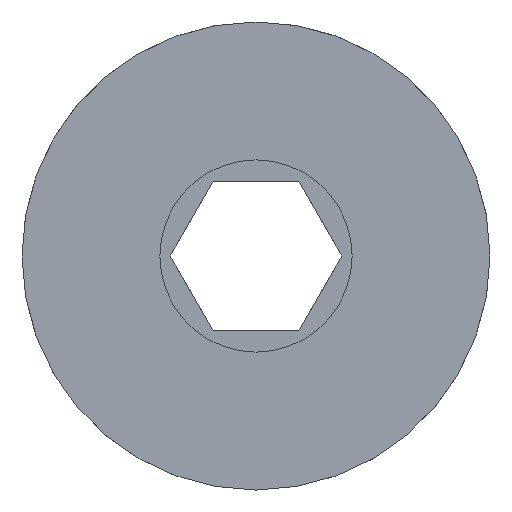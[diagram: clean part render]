
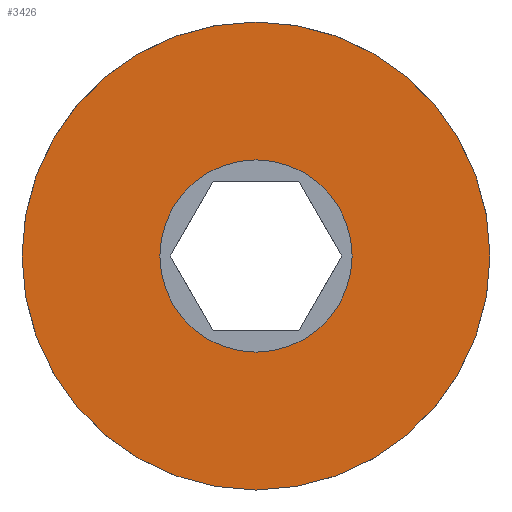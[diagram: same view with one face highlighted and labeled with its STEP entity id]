
A CAD part, front view. The second image highlights one B-rep face of the part: STEP entity #3426.
In plain terms, the highlighted planar face has unit normal (0, -1, 0).
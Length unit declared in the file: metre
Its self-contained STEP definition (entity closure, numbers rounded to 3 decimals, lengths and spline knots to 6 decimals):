
#87=PLANE('',#3881);
#1452=ORIENTED_EDGE('',*,*,#2099,.F.);
#1453=ORIENTED_EDGE('',*,*,#2098,.T.);
#2098=EDGE_CURVE('',#2435,#2435,#2697,.T.);
#2099=EDGE_CURVE('',#2436,#2436,#2698,.T.);
#2435=VERTEX_POINT('',#6032);
#2436=VERTEX_POINT('',#6035);
#2697=CIRCLE('',#3880,0.015457);
#2698=CIRCLE('',#3882,0.00635);
#2886=EDGE_LOOP('',(#1452));
#2887=EDGE_LOOP('',(#1453));
#3102=FACE_BOUND('',#2886,.T.);
#3103=FACE_BOUND('',#2887,.T.);
#3426=ADVANCED_FACE('',(#3102,#3103),#87,.T.);
#3880=AXIS2_PLACEMENT_3D('',#6031,#4979,#4980);
#3881=AXIS2_PLACEMENT_3D('',#6033,#4981,#4982);
#3882=AXIS2_PLACEMENT_3D('',#6034,#4983,#4984);
#4979=DIRECTION('',(0.,-1.,0.));
#4980=DIRECTION('',(0.,0.,-1.));
#4981=DIRECTION('',(0.,-1.,0.));
#4982=DIRECTION('',(1.,0.,0.));
#4983=DIRECTION('',(0.,-1.,0.));
#4984=DIRECTION('',(0.,0.,-1.));
#6031=CARTESIAN_POINT('',(0.0635,-0.007938,0.));
#6032=CARTESIAN_POINT('',(0.0635,-0.007938,-0.015457));
#6033=CARTESIAN_POINT('',(0.0635,-0.007938,0.));
#6034=CARTESIAN_POINT('',(0.0635,-0.007938,0.));
#6035=CARTESIAN_POINT('',(0.0635,-0.007938,-0.00635));
